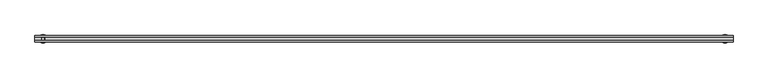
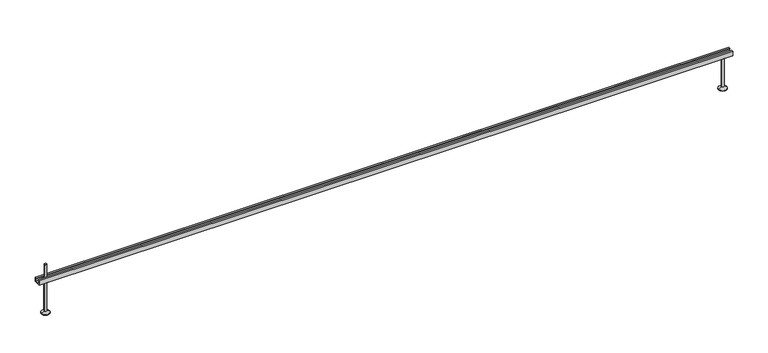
"""IFC4 building model written with IfcOpenShell, lengths in millimetres: fastener geometry, JXA(-PC) JORDAHL® toothed channels : JXA(-PC) L=3000 mm."""

from ifc_helpers import new_model, si_unit, frame, origin, place, context, project, spatial, polyline, circle_curve, outline, extrude, source, transform, mapped, element, save
from ifc_brep_helpers import plane_surface, cylinder_surface, revolved_surface, advanced_brep


def fastener_f195b12c(model_context):
    return source(origin(), model_context, "Body", "SolidModel", [
        advanced_brep(
        [(41.5, 10.5, -5.0), (41.5, -10.5, -5.0), (41.5, -10.5, -12.0), (41.5, 10.5, -12.0), (28.5, 10.5, -5.0), (28.5, 10.5, -12.0), (28.5, -10.5, -12.0), (28.5, -10.5, -5.0), (40.0, 0.0, -5.0), (30.0, 0.0, -5.0), (30.0, 0.0, 55.0), (40.0, 0.0, 55.0)],
        [
            (0, 1),
            (1, 2),
            (2, 3),
            (3, 0),
            (4, 5),
            (5, 6),
            (6, 7),
            (7, 4),
            (0, 4),
            (7, 1),
            (8, 9, circle_curve(frame((35.0, 0.0, -5.0), z_axis=(0.0, 0.0, -1.0), x_axis=(1.0, 0.0, 0.0)), 5.0)),
            (9, 8, circle_curve(frame((35.0, 0.0, -5.0), z_axis=(0.0, 0.0, -1.0), x_axis=(1.0, 0.0, 0.0)), 5.0)),
            (6, 2),
            (5, 3),
            (10, 11, circle_curve(frame((35.0, 0.0, 55.0), z_axis=(0.0, 0.0, 1.0), x_axis=(1.0, 0.0, 0.0)), 5.0)),
            (11, 10, circle_curve(frame((35.0, 0.0, 55.0), z_axis=(0.0, 0.0, 1.0), x_axis=(1.0, 0.0, 0.0)), 5.0)),
            (10, 9),
            (8, 11),
        ],
        [
            plane_surface(frame((41.5, -10.5, -5.0), z_axis=(1.0, 0.0, 0.0), x_axis=(0.0, -1.0, 0.0))),
            plane_surface(frame((28.5, -10.5, -5.0), z_axis=(-1.0, 0.0, 0.0), x_axis=(0.0, 1.0, 0.0))),
            plane_surface(frame((41.5, 10.5, -5.0), z_axis=(0.0, 0.0, 1.0), x_axis=(-1.0, 0.0, 0.0))),
            plane_surface(frame((41.5, -10.5, -5.0), z_axis=(0.0, -1.0, 0.0), x_axis=(-1.0, 0.0, 0.0))),
            plane_surface(frame((41.5, -10.5, -12.0), z_axis=(0.0, 0.0, -1.0), x_axis=(-1.0, 0.0, 0.0))),
            plane_surface(frame((41.5, 10.5, -12.0), z_axis=(0.0, 1.0, 0.0), x_axis=(-1.0, 0.0, 0.0))),
            plane_surface(frame((40.0, 0.0, 55.0), z_axis=(0.0, 0.0, 1.0), x_axis=(0.0, 1.0, 0.0))),
            cylinder_surface(frame((35.0, 0.0, -5.0), z_axis=(0.0, 0.0, 1.0), x_axis=(1.0, 0.0, 0.0)), 5.0),
        ],
        [
            (0, [[1, 2, 3, 4]]),
            (1, [[5, 6, 7, 8]]),
            (2, [[-1, 9, -8, 10], [11, 12]]),
            (3, [[-2, -10, -7, 13]]),
            (4, [[-3, -13, -6, 14]]),
            (5, [[-4, -14, -5, -9]]),
            (6, [[15, 16]]),
            (7, [[-15, 17, -11, 18]]),
            (7, [[-16, -18, -12, -17]]),
        ],
    ),
        advanced_brep(
        [(2965.0, 0.0, -20.0), (2979.5, 0.0, -20.0), (2950.5, 0.0, -20.0), (2947.0, 0.0, -166.0), (2983.0, 0.0, -166.0), (2965.0, 0.0, -166.0), (2947.0, 0.0, -164.0), (2983.0, 0.0, -164.0), (2959.0, 0.0, -157.0717968), (2971.0, 0.0, -157.0717968), (2959.0, 0.0, -22.5), (2971.0, 0.0, -22.5)],
        [
            (0, 1),
            (1, 2, circle_curve(frame((2965.0, 0.0, -20.0), z_axis=(0.0, 0.0, 1.0), x_axis=(1.0, 0.0, 0.0)), 14.5)),
            (2, 0),
            (2, 1, circle_curve(frame((2965.0, 0.0, -20.0), z_axis=(0.0, 0.0, 1.0), x_axis=(1.0, 0.0, 0.0)), 14.5)),
            (3, 4, circle_curve(frame((2965.0, 0.0, -166.0), z_axis=(0.0, 0.0, -1.0), x_axis=(1.0, 0.0, 0.0)), 18.0)),
            (4, 5),
            (5, 3),
            (4, 3, circle_curve(frame((2965.0, 0.0, -166.0), z_axis=(0.0, 0.0, -1.0), x_axis=(1.0, 0.0, 0.0)), 18.0)),
            (6, 7, circle_curve(frame((2965.0, 0.0, -164.0), z_axis=(0.0, 0.0, -1.0), x_axis=(1.0, 0.0, 0.0)), 18.0)),
            (7, 4),
            (3, 6),
            (7, 6, circle_curve(frame((2965.0, 0.0, -164.0), z_axis=(0.0, 0.0, -1.0), x_axis=(1.0, 0.0, 0.0)), 18.0)),
            (8, 9, circle_curve(frame((2965.0, 0.0, -157.0717968), z_axis=(0.0, 0.0, -1.0), x_axis=(1.0, 0.0, 0.0)), 6.0)),
            (9, 7),
            (6, 8),
            (9, 8, circle_curve(frame((2965.0, 0.0, -157.0717968), z_axis=(0.0, 0.0, -1.0), x_axis=(1.0, 0.0, 0.0)), 6.0)),
            (10, 11, circle_curve(frame((2965.0, 0.0, -22.5), z_axis=(0.0, 0.0, -1.0), x_axis=(1.0, 0.0, 0.0)), 6.0)),
            (11, 9),
            (8, 10),
            (11, 10, circle_curve(frame((2965.0, 0.0, -22.5), z_axis=(0.0, 0.0, -1.0), x_axis=(1.0, 0.0, 0.0)), 6.0)),
            (1, 11),
            (10, 2),
        ],
        [
            plane_surface(frame((2965.0, 0.0, -20.0), z_axis=(0.0, 0.0, 1.0), x_axis=(1.0, 0.0, 0.0))),
            plane_surface(frame((2965.0, 0.0, -166.0), z_axis=(0.0, 0.0, -1.0), x_axis=(1.0, 0.0, 0.0))),
            cylinder_surface(frame((2965.0, 0.0, 2214.3150031), z_axis=(0.0, 0.0, 1.0), x_axis=(1.0, 0.0, 0.0)), 18.0),
            revolved_surface(polyline([(2983.0, 0.0, -164.0), (2971.0, 0.0, -157.0717968)]), (2965.0, 0.0, 2214.3150031), (0.0, 0.0, 1.0)),
            cylinder_surface(frame((2965.0, 0.0, 2214.3150031), z_axis=(0.0, 0.0, 1.0), x_axis=(1.0, 0.0, 0.0)), 6.0),
            revolved_surface(polyline([(2971.0, 0.0, -22.5), (2979.5, 0.0, -20.0)]), (2965.0, 0.0, 2214.3150031), (0.0, 0.0, 1.0)),
        ],
        [
            (0, [[1, 2, 3]]),
            (0, [[-3, 4, -1]]),
            (1, [[5, 6, 7]]),
            (1, [[8, -7, -6]]),
            (2, [[9, 10, -5, 11]]),
            (2, [[12, -11, -8, -10]]),
            (3, [[13, 14, -9, 15]]),
            (3, [[16, -15, -12, -14]]),
            (4, [[17, 18, -13, 19]]),
            (4, [[20, -19, -16, -18]]),
            (5, [[-2, 21, -17, 22]]),
            (5, [[-4, -22, -20, -21]]),
        ],
    ),
        advanced_brep(
        [(35.0, 0.0, -20.0), (49.5, 0.0, -20.0), (20.5, 0.0, -20.0), (17.0, 0.0, -166.0), (53.0, 0.0, -166.0), (35.0, 0.0, -166.0), (17.0, 0.0, -164.0), (53.0, 0.0, -164.0), (29.0, 0.0, -157.0717968), (41.0, 0.0, -157.0717968), (29.0, 0.0, -22.5), (41.0, 0.0, -22.5)],
        [
            (0, 1),
            (1, 2, circle_curve(frame((35.0, 0.0, -20.0), z_axis=(0.0, 0.0, 1.0), x_axis=(1.0, 0.0, 0.0)), 14.5)),
            (2, 0),
            (2, 1, circle_curve(frame((35.0, 0.0, -20.0), z_axis=(0.0, 0.0, 1.0), x_axis=(1.0, 0.0, 0.0)), 14.5)),
            (3, 4, circle_curve(frame((35.0, 0.0, -166.0), z_axis=(0.0, 0.0, -1.0), x_axis=(1.0, 0.0, 0.0)), 18.0)),
            (4, 5),
            (5, 3),
            (4, 3, circle_curve(frame((35.0, 0.0, -166.0), z_axis=(0.0, 0.0, -1.0), x_axis=(1.0, 0.0, 0.0)), 18.0)),
            (6, 7, circle_curve(frame((35.0, 0.0, -164.0), z_axis=(0.0, 0.0, -1.0), x_axis=(1.0, 0.0, 0.0)), 18.0)),
            (7, 4),
            (3, 6),
            (7, 6, circle_curve(frame((35.0, 0.0, -164.0), z_axis=(0.0, 0.0, -1.0), x_axis=(1.0, 0.0, 0.0)), 18.0)),
            (8, 9, circle_curve(frame((35.0, 0.0, -157.0717968), z_axis=(0.0, 0.0, -1.0), x_axis=(1.0, 0.0, 0.0)), 6.0)),
            (9, 7),
            (6, 8),
            (9, 8, circle_curve(frame((35.0, 0.0, -157.0717968), z_axis=(0.0, 0.0, -1.0), x_axis=(1.0, 0.0, 0.0)), 6.0)),
            (10, 11, circle_curve(frame((35.0, 0.0, -22.5), z_axis=(0.0, 0.0, -1.0), x_axis=(1.0, 0.0, 0.0)), 6.0)),
            (11, 9),
            (8, 10),
            (11, 10, circle_curve(frame((35.0, 0.0, -22.5), z_axis=(0.0, 0.0, -1.0), x_axis=(1.0, 0.0, 0.0)), 6.0)),
            (1, 11),
            (10, 2),
        ],
        [
            plane_surface(frame((35.0, 0.0, -20.0), z_axis=(0.0, 0.0, 1.0), x_axis=(1.0, 0.0, 0.0))),
            plane_surface(frame((35.0, 0.0, -166.0), z_axis=(0.0, 0.0, -1.0), x_axis=(1.0, 0.0, 0.0))),
            cylinder_surface(frame((35.0, 0.0, 2214.3150031), z_axis=(0.0, 0.0, 1.0), x_axis=(1.0, 0.0, 0.0)), 18.0),
            revolved_surface(polyline([(53.0, 0.0, -164.0), (41.0, 0.0, -157.0717968)]), (35.0, 0.0, 2214.3150031), (0.0, 0.0, 1.0)),
            cylinder_surface(frame((35.0, 0.0, 2214.3150031), z_axis=(0.0, 0.0, 1.0), x_axis=(1.0, 0.0, 0.0)), 6.0),
            revolved_surface(polyline([(41.0, 0.0, -22.5), (49.5, 0.0, -20.0)]), (35.0, 0.0, 2214.3150031), (0.0, 0.0, 1.0)),
        ],
        [
            (0, [[1, 2, 3]]),
            (0, [[-3, 4, -1]]),
            (1, [[5, 6, 7]]),
            (1, [[8, -7, -6]]),
            (2, [[9, 10, -5, 11]]),
            (2, [[12, -11, -8, -10]]),
            (3, [[13, 14, -9, 15]]),
            (3, [[16, -15, -12, -14]]),
            (4, [[17, 18, -13, 19]]),
            (4, [[20, -19, -16, -18]]),
            (5, [[-2, 21, -17, 22]]),
            (5, [[-4, -22, -20, -21]]),
        ],
    ),
        extrude(outline(polyline([(14.5, 0.0), (14.5, -20.0), (-14.5, -20.0), (-14.5, 0.0), (-7.0, 0.0), (-7.0, -3.0), (-12.0, -3.0), (-12.0, -17.5), (12.0, -17.5), (12.0, -3.0), (7.0, -3.0), (7.0, 0.0), (14.5, 0.0)])), frame((0.0, 0.0, 0.0), z_axis=(1.0, 0.0, 0.0), x_axis=(0.0, 1.0, 0.0)), (0.0, 0.0, 1.0), 3000.0),
    ])


if __name__ == "__main__":
    model = new_model("IFC4")
    model_context = context("Model", 3, world=origin())
    ifc_project = project(units=[si_unit("LENGTHUNIT", "METRE", prefix="MILLI")], contexts=[model_context])
    site = spatial("IfcSite", under=ifc_project)
    building = spatial("IfcBuilding", under=site)
    placement = place(None, origin())
    fastener_shape = fastener_f195b12c(model_context)
    element("IfcFastener", 1, ObjectType="JXA(-PC) JORDAHL® toothed channels : JXA(-PC) L=3000 mm", at=placement, inside=building, context=model_context, shape_type="MappedRepresentation", body=[
        mapped(fastener_shape, transform((0.0, 0.0, 0.0), x_axis=(1.0, 0.0, 0.0), y_axis=(0.0, 1.0, 0.0), z_axis=(0.0, 0.0, 1.0))),
    ])
    save(model, "model.ifc")
